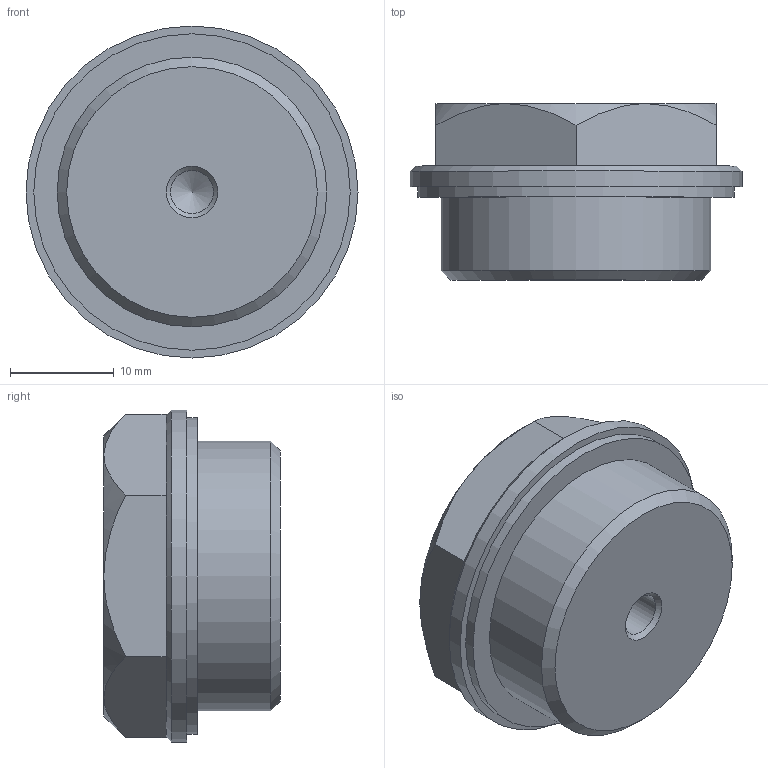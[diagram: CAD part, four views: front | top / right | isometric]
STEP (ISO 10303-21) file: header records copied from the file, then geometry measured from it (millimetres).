
FILE_DESCRIPTION( ( 'STEP AP203' ), '1' );
FILE_NAME( 'C:/Temp/Ganter_Step_05_03_2020/data/3_5/gn742/gn742_1/Threaded plug GN 742-32-M26x1,5-ES-1.stp', '2020-03-12T13:39:04', ( 'License CC BY-ND 4.0' ), ( 'CADENAS' ), ' ', 'PARTsolutions', ' ' );
FILE_SCHEMA( ( 'CONFIG_CONTROL_DESIGN' ) );
Length unit declared in the file: millimetre
Products named in the file (1): _Threaded plug GN 742-32-M26x1,5-ES-1
Bounding box: 32 x 17 x 32 mm (x, y, z)
Volume: 10108.4 mm3; surface area: 3172.8 mm2
Topology: 1 solids, 1 shells, 63 faces, 149 edges, 92 vertices
Faces by surface type: plane 49, cone 10, cylinder 4
Full cylindrical faces by diameter (mm): 4.134 x1, 26 x1, 30.5 x1, 32 x1
Entity records: 1825 total; most frequent: CARTESIAN_POINT 378, DIRECTION 283, ORIENTED_EDGE 278, EDGE_CURVE 139, LINE 99, VECTOR 99, AXIS2_PLACEMENT_3D 92, VERTEX_POINT 91
